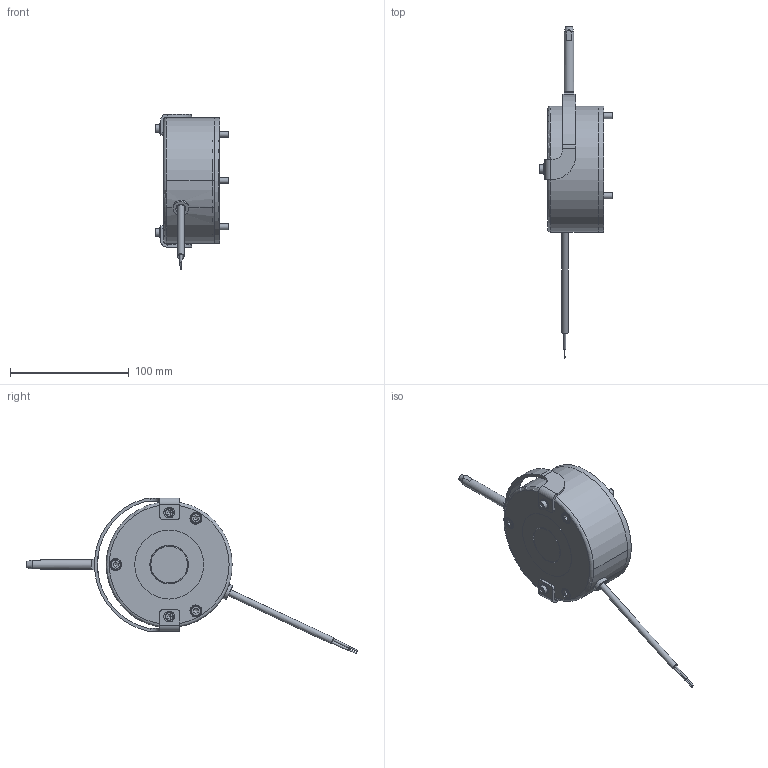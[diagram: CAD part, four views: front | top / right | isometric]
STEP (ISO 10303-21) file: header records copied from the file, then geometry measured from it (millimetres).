
FILE_DESCRIPTION(/* description */ (''),/* implementation_level */ '2;1');
FILE_NAME(/* name */ 'C:\SapWorkDir\Inventor\IP1\ConvertTempPath\5028615_IPT_000.ipt.stp',/* time_stamp */ '2020-09-10T14:00:34+02:00',/* author */ ('STRATE'),/* organization */ (''),/* preprocessor_version */ 'ST-DEVELOPER v17',/* originating_system */ 'Autodesk Inventor 2018',/* authorisation */ '');
FILE_SCHEMA (('AUTOMOTIVE_DESIGN { 1 0 10303 214 3 1 1 }'));
Length unit declared in the file: millimetre
Products named in the file (1): 5028615
Bounding box: 62.3 x 279.42 x 131.24 mm (x, y, z)
Volume: 256733.8 mm3; surface area: 108461.1 mm2
Topology: 5 solids, 5 shells, 598 faces, 1646 edges, 1123 vertices
Faces by surface type: cylinder 349, plane 149, cone 62, torus 33, bspline 5
Full cylindrical faces by diameter (mm): 1 x2, 1.85 x2, 2.2 x14, 3.242 x2, 4 x2, 4.134 x1, 4.3 x2, 4.7 x2, 5 x5, 5.2 x3, 5.3 x1, 5.4 x14, 5.5 x7, 5.9 x2, 6 x2, 6.2 x14, 6.6 x1, 6.7 x1, 6.8 x2, 7 x2, 8 x1, 8.5 x3, 8.9 x3, 9 x2, 9.2 x1, 10 x3, 13.2 x1, 24 x1, 31.9 x1, 32 x2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
Entity records: 21266 total; most frequent: CARTESIAN_POINT 5025, DIRECTION 3331, ORIENTED_EDGE 3254, EDGE_CURVE 1627, AXIS2_PLACEMENT_3D 1381, VERTEX_POINT 1123, CIRCLE 787, EDGE_LOOP 708
